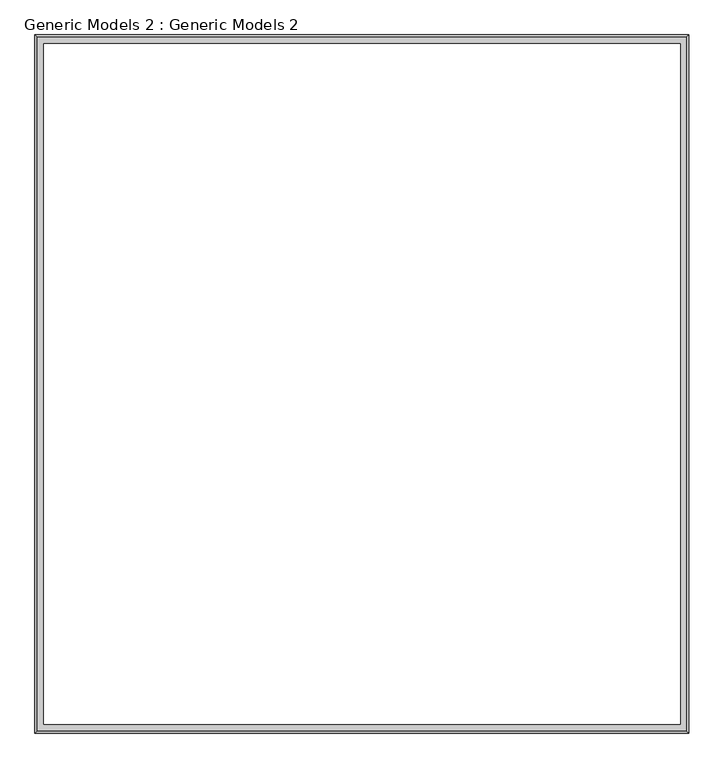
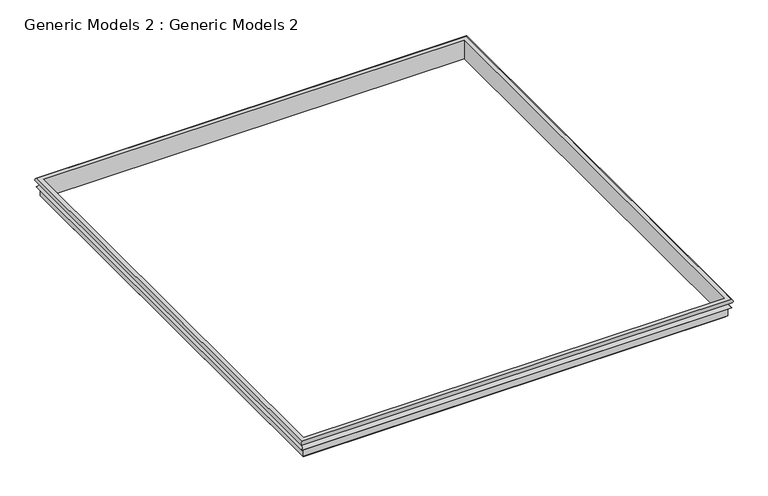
"""IFC4 building model written with IfcOpenShell, lengths in millimetres: proxy geometry, Generic Models 2 : Generic Models 2."""

from ifc_helpers import new_model, si_unit, frame, origin, place, context, project, spatial, polyline, ellipse_curve, source, transform, mapped, element, save
from ifc_brep_helpers import plane_surface, cylinder_surface, revolved_surface, advanced_brep


def generic_models_2_generic_models_2_a96ec142(model_context):
    return source(origin(), model_context, "Body", "AdvancedBrep", [
        advanced_brep(
        [(-11735.0450906, -8579.3693311, 8737.6), (-11735.0450906, -8579.3693311, 8674.1), (-11735.0450906, -15729.4693311, 8674.1), (-11735.0450906, -15729.4693311, 8737.6), (-11665.1950906, -8649.2193311, 8432.8), (-11665.1950906, -8649.2193311, 8737.6), (-11665.1950906, -15659.6193311, 8737.6), (-11665.1950906, -15659.6193311, 8432.8), (-11681.0700906, -8633.3443311, 8458.2), (-11681.0700906, -8633.3443311, 8432.8), (-11681.0700906, -15675.4943311, 8432.8), (-11681.0700906, -15675.4943311, 8458.2), (-11700.1200906, -8614.2943311, 8572.5), (-11700.1200906, -8614.2943311, 8458.2), (-11700.1200906, -15694.5443311, 8458.2), (-11700.1200906, -15694.5443311, 8572.5), (-11712.8200906, -8601.5943311, 8597.9), (-11712.8200906, -8601.5943311, 8572.5), (-11712.8200906, -15707.2443311, 8572.5), (-11712.8200906, -15707.2443311, 8597.9), (-11725.5200906, -8588.8943311, 8674.1), (-11738.9562065, -8575.4582152, 8597.9), (-11738.9562065, -15733.3804471, 8597.9), (-11725.5200906, -15719.9443311, 8674.1), (-5042.1450906, -15729.4693311, 8674.1), (-5042.1450906, -15729.4693311, 8737.6), (-5111.9950906, -15659.6193311, 8737.6), (-5111.9950906, -15659.6193311, 8432.8), (-5096.1200906, -15675.4943311, 8432.8), (-5096.1200906, -15675.4943311, 8458.2), (-5077.0700906, -15694.5443311, 8458.2), (-5077.0700906, -15694.5443311, 8572.5), (-5064.3700906, -15707.2443311, 8572.5), (-5064.3700906, -15707.2443311, 8597.9), (-5038.2339746, -15733.3804471, 8597.9), (-5051.6700906, -15719.9443311, 8674.1), (-5042.1450906, -8579.3693311, 8674.1), (-5042.1450906, -8579.3693311, 8737.6), (-5111.9950906, -8649.2193311, 8737.6), (-5111.9950906, -8649.2193311, 8432.8), (-5096.1200906, -8633.3443311, 8432.8), (-5096.1200906, -8633.3443311, 8458.2), (-5077.0700906, -8614.2943311, 8458.2), (-5077.0700906, -8614.2943311, 8572.5), (-5064.3700906, -8601.5943311, 8572.5), (-5064.3700906, -8601.5943311, 8597.9), (-5038.2339746, -8575.4582152, 8597.9), (-5051.6700906, -8588.8943311, 8674.1)],
        [
            (0, 1, ellipse_curve(frame((-11718.1910268, -8596.2233949, 8705.85), z_axis=(-0.707106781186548, -0.707106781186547, 0.0), x_axis=(-0.7071067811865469, 0.707106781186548, 0.0)), 50.8354594, 35.946098)),
            (1, 2),
            (2, 3, ellipse_curve(frame((-11718.1910268, -15712.6152674, 8705.85), z_axis=(-0.707106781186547, 0.7071067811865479, 0.0), x_axis=(0.7071067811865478, 0.7071067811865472, 0.0)), 50.8354594, 35.946098)),
            (3, 0),
            (4, 5),
            (5, 6),
            (6, 7),
            (7, 4),
            (8, 9),
            (9, 10),
            (10, 11),
            (11, 8),
            (12, 13),
            (13, 14),
            (14, 15),
            (15, 12),
            (16, 17),
            (17, 18),
            (18, 19),
            (19, 16),
            (20, 21, ellipse_curve(frame((-11758.046914, -8556.3675077, 8640.5507817), z_axis=(0.707106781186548, 0.707106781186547, 0.0), x_axis=(0.7071067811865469, -0.707106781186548, 0.0)), 66.083951, 46.7284099)),
            (21, 22),
            (22, 23, ellipse_curve(frame((-11758.046914, -15752.4711546, 8640.5507817), z_axis=(0.707106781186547, -0.7071067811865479, 0.0), x_axis=(-0.7071067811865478, -0.7071067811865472, 0.0)), 66.083951, 46.7284099)),
            (23, 20),
            (2, 24),
            (24, 25, ellipse_curve(frame((-5058.9991543, -15712.6152674, 8705.85), z_axis=(-0.707106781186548, -0.7071067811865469, 0.0), x_axis=(-0.7071067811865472, 0.7071067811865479, 0.0)), 50.8354594, 35.946098)),
            (25, 3),
            (6, 26),
            (26, 27),
            (27, 7),
            (10, 28),
            (28, 29),
            (29, 11),
            (14, 30),
            (30, 31),
            (31, 15),
            (18, 32),
            (32, 33),
            (33, 19),
            (22, 34),
            (34, 35, ellipse_curve(frame((-5019.1432671, -15752.4711546, 8640.5507817), z_axis=(0.707106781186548, 0.7071067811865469, 0.0), x_axis=(0.7071067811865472, -0.7071067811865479, 0.0)), 66.083951, 46.7284099)),
            (35, 23),
            (24, 36),
            (36, 37, ellipse_curve(frame((-5058.9991543, -8596.2233949, 8705.85), z_axis=(0.707106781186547, -0.7071067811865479, 0.0), x_axis=(-0.7071067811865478, -0.7071067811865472, 0.0)), 50.8354594, 35.946098)),
            (37, 25),
            (26, 38),
            (38, 39),
            (39, 27),
            (28, 40),
            (40, 41),
            (41, 29),
            (30, 42),
            (42, 43),
            (43, 31),
            (32, 44),
            (44, 45),
            (45, 33),
            (34, 46),
            (46, 47, ellipse_curve(frame((-5019.1432671, -8556.3675077, 8640.5507817), z_axis=(-0.707106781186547, 0.7071067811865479, 0.0), x_axis=(0.7071067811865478, 0.7071067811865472, 0.0)), 66.083951, 46.7284099)),
            (47, 35),
            (1, 36),
            (47, 20),
            (0, 37),
            (5, 38),
            (4, 39),
            (9, 40),
            (8, 41),
            (13, 42),
            (12, 43),
            (17, 44),
            (16, 45),
            (21, 46),
        ],
        [
            cylinder_surface(frame((-11718.1910268, -8649.2193311, 8705.85), z_axis=(0.0, 1.0, 0.0), x_axis=(-1.0, 0.0, 0.0)), 35.946098),
            plane_surface(frame((-11665.1950906, -8649.2193311, 8737.6), z_axis=(1.0, 0.0, 0.0), x_axis=(0.0, -1.0, 0.0))),
            plane_surface(frame((-11681.0700906, -8633.3443311, 8432.8), z_axis=(-1.0, 0.0, 0.0), x_axis=(0.0, -1.0, 0.0))),
            plane_surface(frame((-11700.1200906, -8614.2943311, 8458.2), z_axis=(-1.0, 0.0, 0.0), x_axis=(0.0, -1.0, 0.0))),
            plane_surface(frame((-11712.8200906, -8601.5943311, 8572.5), z_axis=(-1.0, 0.0, 0.0), x_axis=(0.0, -1.0, 0.0))),
            revolved_surface(polyline([(-11804.775323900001, -15799.199564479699, 8640.5507817), (-11804.775323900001, -8509.639097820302, 8640.5507817)]), (-11758.046914, -8649.2193311, 8640.5507817), (0.0, -1.0, 0.0)),
            cylinder_surface(frame((-11665.1950906, -15712.6152674, 8705.85), z_axis=(-1.0, 0.0, 0.0), x_axis=(0.0, -1.0, 0.0)), 35.946098),
            plane_surface(frame((-11665.1950906, -15659.6193311, 8737.6), z_axis=(0.0, 1.0, 0.0), x_axis=(1.0, 0.0, 0.0))),
            plane_surface(frame((-11681.0700906, -15675.4943311, 8432.8), z_axis=(0.0, -1.0, 0.0), x_axis=(1.0, 0.0, 0.0))),
            plane_surface(frame((-11700.1200906, -15694.5443311, 8458.2), z_axis=(0.0, -1.0, 0.0), x_axis=(1.0, 0.0, 0.0))),
            plane_surface(frame((-11712.8200906, -15707.2443311, 8572.5), z_axis=(0.0, -1.0, 0.0), x_axis=(1.0, 0.0, 0.0))),
            revolved_surface(polyline([(-4972.4148572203, -15799.1995645, 8640.5507817), (-11804.7753238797, -15799.1995645, 8640.5507817)]), (-11665.1950906, -15752.4711546, 8640.5507817), (1.0, 0.0, 0.0)),
            cylinder_surface(frame((-5058.9991543, -15659.6193311, 8705.85), z_axis=(0.0, -1.0, 0.0), x_axis=(1.0, 0.0, 0.0)), 35.946098),
            plane_surface(frame((-5111.9950906, -15659.6193311, 8737.6), z_axis=(-1.0, 0.0, 0.0), x_axis=(0.0, 1.0, 0.0))),
            plane_surface(frame((-5096.1200906, -15675.4943311, 8432.8), z_axis=(1.0, 0.0, 0.0), x_axis=(0.0, 1.0, 0.0))),
            plane_surface(frame((-5077.0700906, -15694.5443311, 8458.2), z_axis=(1.0, 0.0, 0.0), x_axis=(0.0, 1.0, 0.0))),
            plane_surface(frame((-5064.3700906, -15707.2443311, 8572.5), z_axis=(1.0, 0.0, 0.0), x_axis=(0.0, 1.0, 0.0))),
            revolved_surface(polyline([(-4972.4148572, -8509.639097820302, 8640.5507817), (-4972.4148572, -15799.199564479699, 8640.5507817)]), (-5019.1432671, -15659.6193311, 8640.5507817), (0.0, 1.0, 0.0)),
            plane_surface(frame((-5051.6700906, -8588.8943311, 8674.1), z_axis=(0.0, 0.0, -1.0), x_axis=(-1.0, 0.0, 0.0))),
            cylinder_surface(frame((-5111.9950906, -8596.2233949, 8705.85), z_axis=(1.0, 0.0, 0.0), x_axis=(0.0, 1.0, 0.0)), 35.946098),
            plane_surface(frame((-5042.1450906, -8579.3693311, 8737.6), z_axis=(0.0, 0.0, 1.0), x_axis=(-1.0, 0.0, 0.0))),
            plane_surface(frame((-5111.9950906, -8649.2193311, 8737.6), z_axis=(0.0, -1.0, 0.0), x_axis=(-1.0, 0.0, 0.0))),
            plane_surface(frame((-5111.9950906, -8649.2193311, 8432.8), z_axis=(0.0, 0.0, -1.0), x_axis=(-1.0, 0.0, 0.0))),
            plane_surface(frame((-5096.1200906, -8633.3443311, 8432.8), z_axis=(0.0, 1.0, 0.0), x_axis=(-1.0, 0.0, 0.0))),
            plane_surface(frame((-5096.1200906, -8633.3443311, 8458.2), z_axis=(0.0, 0.0, -1.0), x_axis=(-1.0, 0.0, 0.0))),
            plane_surface(frame((-5077.0700906, -8614.2943311, 8458.2), z_axis=(0.0, 1.0, 0.0), x_axis=(-1.0, 0.0, 0.0))),
            plane_surface(frame((-5077.0700906, -8614.2943311, 8572.5), z_axis=(0.0, 0.0, -1.0), x_axis=(-1.0, 0.0, 0.0))),
            plane_surface(frame((-5064.3700906, -8601.5943311, 8572.5), z_axis=(0.0, 1.0, 0.0), x_axis=(-1.0, 0.0, 0.0))),
            plane_surface(frame((-5064.3700906, -8601.5943311, 8597.9), z_axis=(0.0, 0.0, -1.0), x_axis=(-1.0, 0.0, 0.0))),
            revolved_surface(polyline([(-11804.775323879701, -8509.6390978, 8640.5507817), (-4972.4148572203, -8509.6390978, 8640.5507817)]), (-5111.9950906, -8556.3675077, 8640.5507817), (-1.0, 0.0, 0.0)),
        ],
        [
            (0, [[1, 2, 3, 4]]),
            (1, [[5, 6, 7, 8]]),
            (2, [[9, 10, 11, 12]]),
            (3, [[13, 14, 15, 16]]),
            (4, [[17, 18, 19, 20]]),
            (5, [[21, 22, 23, 24]]),
            (6, [[-3, 25, 26, 27]]),
            (7, [[-7, 28, 29, 30]]),
            (8, [[-11, 31, 32, 33]]),
            (9, [[-15, 34, 35, 36]]),
            (10, [[-19, 37, 38, 39]]),
            (11, [[-23, 40, 41, 42]]),
            (12, [[-26, 43, 44, 45]]),
            (13, [[-29, 46, 47, 48]]),
            (14, [[-32, 49, 50, 51]]),
            (15, [[-35, 52, 53, 54]]),
            (16, [[-38, 55, 56, 57]]),
            (17, [[-41, 58, 59, 60]]),
            (18, [[61, -43, -25, -2], [-42, -60, 62, -24]]),
            (19, [[-44, -61, -1, 63]]),
            (20, [[-27, -45, -63, -4], [64, -46, -28, -6]]),
            (21, [[-47, -64, -5, 65]]),
            (22, [[66, -49, -31, -10], [-30, -48, -65, -8]]),
            (23, [[-50, -66, -9, 67]]),
            (24, [[68, -52, -34, -14], [-33, -51, -67, -12]]),
            (25, [[-53, -68, -13, 69]]),
            (26, [[70, -55, -37, -18], [-36, -54, -69, -16]]),
            (27, [[-56, -70, -17, 71]]),
            (28, [[72, -58, -40, -22], [-39, -57, -71, -20]]),
            (29, [[-59, -72, -21, -62]]),
        ],
    ),
    ])


if __name__ == "__main__":
    model = new_model("IFC4")
    model_context = context("Model", 3, world=origin())
    ifc_project = project(units=[si_unit("LENGTHUNIT", "METRE", prefix="MILLI")], contexts=[model_context])
    site = spatial("IfcSite", under=ifc_project)
    building = spatial("IfcBuilding", under=site)
    placement = place(None, origin())
    generic_models_2_generic_models_2_shape = generic_models_2_generic_models_2_a96ec142(model_context)
    element("IfcBuildingElementProxy", 1, Name="Generic Models 2 : Generic Models 2", ObjectType="Generic Models 2 : Generic Models 2", at=placement, inside=building, context=model_context, shape_type="MappedRepresentation", body=[
        mapped(generic_models_2_generic_models_2_shape, transform((0.0, 0.0, 0.0), x_axis=(1.0, 0.0, 0.0), y_axis=(0.0, 1.0, 0.0), z_axis=(0.0, 0.0, 1.0))),
    ])
    save(model, "model.ifc")
